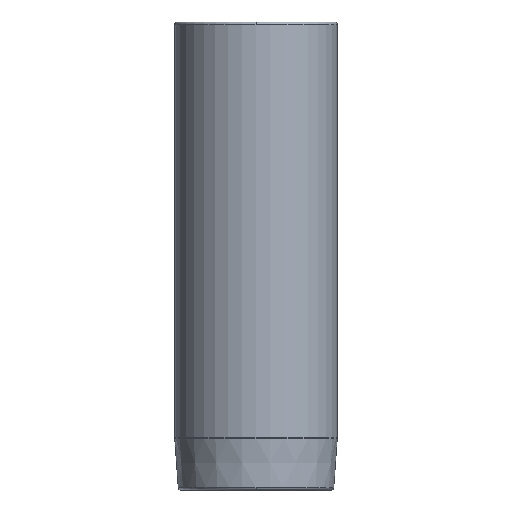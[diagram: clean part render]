
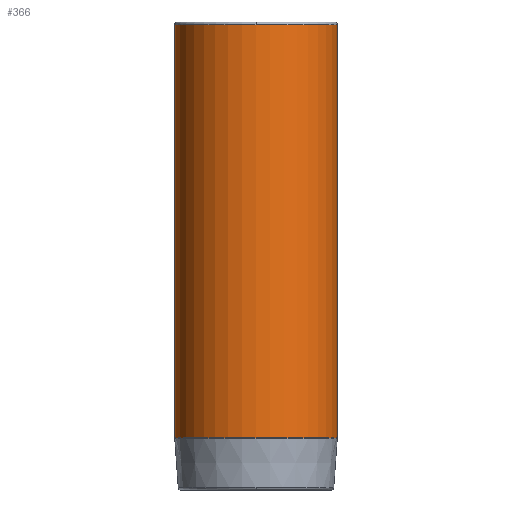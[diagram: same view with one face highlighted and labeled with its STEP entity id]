
A CAD part, front view. The second image highlights one B-rep face of the part: STEP entity #366.
In plain terms, the highlighted cylindrical face has radius 15.625 mm (diameter 31.25 mm), a partial arc.
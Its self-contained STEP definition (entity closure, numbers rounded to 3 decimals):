
#271=CARTESIAN_POINT('',(0.0,-15.625,47.5));
#272=VERTEX_POINT('',#271);
#298=CARTESIAN_POINT('',(-15.625,0.,47.5));
#299=VERTEX_POINT('',#298);
#307=CARTESIAN_POINT('',(0.0,0.,47.5));
#308=DIRECTION('',(0.0,0.0,1.0));
#309=DIRECTION('',(1.0,0.0,0.0));
#310=AXIS2_PLACEMENT_3D('',#307,#308,#309);
#311=CIRCLE('',#310,15.625);
#312=EDGE_CURVE('',#299,#272,#311,.T.);
#317=CARTESIAN_POINT('',(0.0,0.,7.767));
#318=DIRECTION('',(0.0,0.,1.0));
#319=DIRECTION('',(1.0,0.0,0.0));
#320=AXIS2_PLACEMENT_3D('',#317,#318,#319);
#321=CYLINDRICAL_SURFACE('',#320,15.625);
#322=CARTESIAN_POINT('',(15.625,0.,47.5));
#323=VERTEX_POINT('',#322);
#324=CARTESIAN_POINT('',(15.625,0.,-31.965));
#325=VERTEX_POINT('',#324);
#326=CARTESIAN_POINT('',(15.625,0.,47.5));
#327=DIRECTION('',(0.0,0.0,-1.0));
#328=VECTOR('',#327,79.465);
#329=LINE('',#326,#328);
#330=EDGE_CURVE('',#323,#325,#329,.T.);
#331=ORIENTED_EDGE('',*,*,#330,.F.);
#332=CARTESIAN_POINT('',(0.0,0.,47.5));
#333=DIRECTION('',(0.0,0.0,1.0));
#334=DIRECTION('',(1.0,0.0,0.0));
#335=AXIS2_PLACEMENT_3D('',#332,#333,#334);
#336=CIRCLE('',#335,15.625);
#337=EDGE_CURVE('',#272,#323,#336,.T.);
#338=ORIENTED_EDGE('',*,*,#337,.F.);
#339=ORIENTED_EDGE('',*,*,#312,.F.);
#340=CARTESIAN_POINT('',(-15.625,0.,-31.965));
#341=VERTEX_POINT('',#340);
#342=CARTESIAN_POINT('',(-15.625,0.,47.5));
#343=DIRECTION('',(0.0,0.0,-1.0));
#344=VECTOR('',#343,79.465);
#345=LINE('',#342,#344);
#346=EDGE_CURVE('',#299,#341,#345,.T.);
#347=ORIENTED_EDGE('',*,*,#346,.T.);
#348=CARTESIAN_POINT('',(0.0,-15.625,-31.965));
#349=VERTEX_POINT('',#348);
#350=CARTESIAN_POINT('',(0.0,0.,-31.965));
#351=DIRECTION('',(0.0,0.0,1.0));
#352=DIRECTION('',(1.0,0.0,0.0));
#353=AXIS2_PLACEMENT_3D('',#350,#351,#352);
#354=CIRCLE('',#353,15.625);
#355=EDGE_CURVE('',#341,#349,#354,.T.);
#356=ORIENTED_EDGE('',*,*,#355,.T.);
#357=CARTESIAN_POINT('',(0.0,0.,-31.965));
#358=DIRECTION('',(0.0,0.0,1.0));
#359=DIRECTION('',(1.0,0.0,0.0));
#360=AXIS2_PLACEMENT_3D('',#357,#358,#359);
#361=CIRCLE('',#360,15.625);
#362=EDGE_CURVE('',#349,#325,#361,.T.);
#363=ORIENTED_EDGE('',*,*,#362,.T.);
#364=EDGE_LOOP('',(#331,#338,#339,#347,#356,#363));
#365=FACE_OUTER_BOUND('',#364,.T.);
#366=ADVANCED_FACE('',(#365),#321,.T.);
